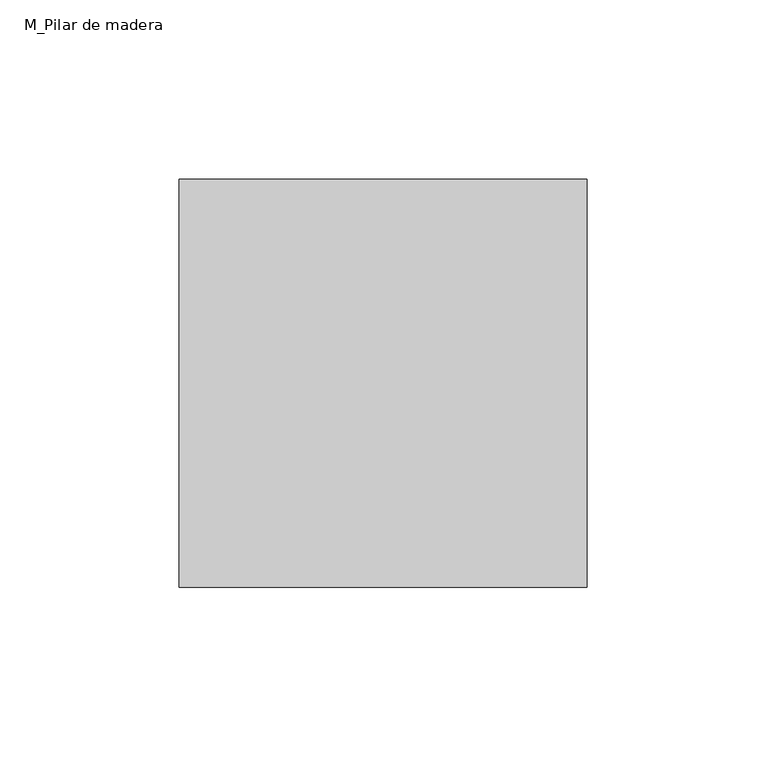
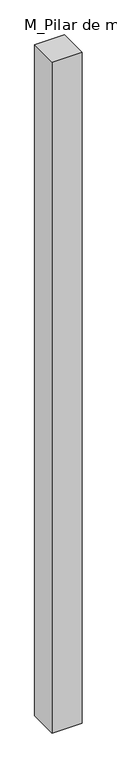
"""IFC4 building model written with IfcOpenShell, lengths in millimetres: column geometry, M_Pilar de madera : 114 x 114 para culumpio."""

from ifc_helpers import new_model, si_unit, origin, origin_with_axes, place, context, project, spatial, polyline, outline, extrude, source, transform, mapped, element, save


def m_pilar_de_madera_b508f74c(model_context):
    return source(origin(), model_context, "Body", "SweptSolid", [
        extrude(outline(polyline([(57.0, 57.0), (57.0, -57.0), (-57.0, -57.0), (-57.0, 57.0), (57.0, 57.0)])), origin_with_axes(), (0.0, 0.0, 1.0), 2700.0),
    ])


if __name__ == "__main__":
    model = new_model("IFC4")
    model_context = context("Model", 3, world=origin())
    ifc_project = project(units=[si_unit("LENGTHUNIT", "METRE", prefix="MILLI")], contexts=[model_context])
    site = spatial("IfcSite", under=ifc_project)
    building = spatial("IfcBuilding", under=site)
    placement = place(None, origin())
    m_pilar_de_madera_shape = m_pilar_de_madera_b508f74c(model_context)
    element("IfcColumn", 1, ObjectType="M_Pilar de madera : 114 x 114 para culumpio", at=placement, inside=building, context=model_context, shape_type="MappedRepresentation", body=[
        mapped(m_pilar_de_madera_shape, transform((0.0, 0.0, 0.0), x_axis=(1.0, 0.0, 0.0), y_axis=(0.0, 1.0, 0.0), z_axis=(0.0, 0.0, 1.0))),
    ])
    save(model, "model.ifc")
